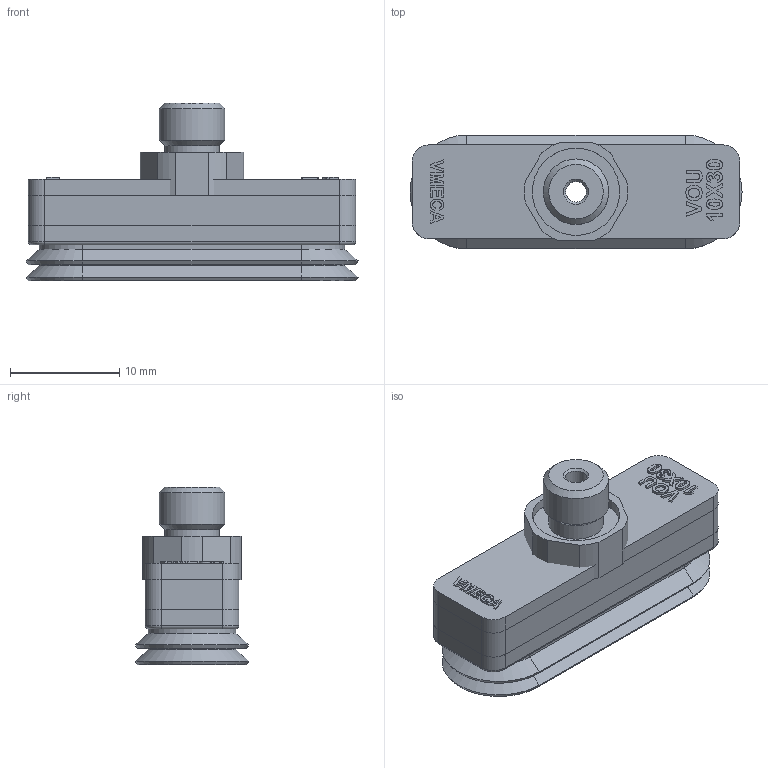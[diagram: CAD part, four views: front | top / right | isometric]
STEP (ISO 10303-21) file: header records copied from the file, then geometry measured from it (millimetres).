
FILE_DESCRIPTION( ( 'Unknown' ), '1' );
FILE_NAME( 'C:/Documents and Settings/owner/官帕 拳搁/MISUMI/PAD/VOU/VOU 10X30-N-M6M.stp', 'Unknown', ( 'Unknown' ), ( 'Unknown' ), 'XStep 1.0', 'Unknown', ' ' );
FILE_SCHEMA( ( 'automotive_design' ) );
Length unit declared in the file: millimetre
Products named in the file (3): Assem1; 10X30_STP; VOU M6M
Bounding box: 30.42 x 10.42 x 16.3 mm (x, y, z)
Volume: 4449.2 mm3; surface area: 3513.9 mm2
Topology: 4 solids, 4 shells, 334 faces, 810 edges, 524 vertices
Faces by surface type: plane 236, cylinder 44, extrusion 32, cone 14, torus 8
Full cylindrical faces by diameter (mm): 1.9 x2, 3 x2, 3.1 x2, 5 x2, 6 x2, 8 x2
Entity records: 5869 total; most frequent: CARTESIAN_POINT 1759, ORIENTED_EDGE 778, DIRECTION 736, EDGE_CURVE 389, VECTOR 318, LINE 302, VERTEX_POINT 261, AXIS2_PLACEMENT_3D 209
